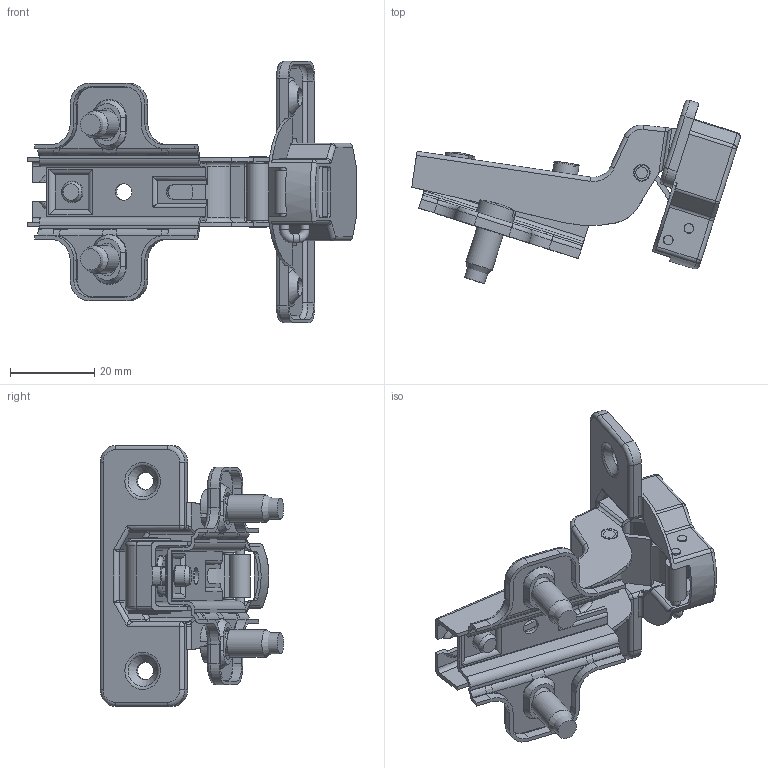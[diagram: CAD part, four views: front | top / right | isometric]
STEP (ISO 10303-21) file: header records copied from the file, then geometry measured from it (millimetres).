
FILE_DESCRIPTION(/* description */ (''),/* implementation_level */ '2;1');
FILE_NAME(/* name */ 'W:\R&D\pub\Katalog techniczny\bryły 3D\ZP-BICN070ZE.stp',/* time_stamp */ '2016-09-13T12:47:36+02:00',/* author */ ('tomaszw'),/* organization */ (''),/* preprocessor_version */ 'ST-DEVELOPER v16.1',/* originating_system */ 'Autodesk Inventor 2016',/* authorisation */ '');
FILE_SCHEMA (('AUTOMOTIVE_DESIGN { 1 0 10303 214 3 1 1 }'));
Length unit declared in the file: millimetre
Products named in the file (12): P0; ZP-BICN070BE; ZP-BICN0_1; ZP-BICN0-P; ZP-BICN0_2; ZP-BICN0_pin1; ZP-BICN0_pin2; ZP-BICN0_pin3; Euro; Wkret4x6; WR; ZP-BICN(R)07(8)(9)0(2)BE(ZE)
Assembly tree (12 placements, depth 2):
  ZP-BICN(R)07(8)(9)0(2)BE(ZE)
    P0
    ZP-BICN070BE
    ZP-BICN0_1
    ZP-BICN0-P
    ZP-BICN0_2
    ZP-BICN0_pin1
    ZP-BICN0_pin2
    ZP-BICN0_pin3
    Euro  x2
    Wkret4x6
    WR
Bounding box: 77.92 x 43.51 x 62 mm (x, y, z)
Volume: 9802.4 mm3; surface area: 20381.4 mm2
Topology: 14 solids, 14 shells, 699 faces, 1721 edges, 1044 vertices
Faces by surface type: cylinder 300, plane 237, torus 71, bspline 35, sphere 34, cone 22
Full cylindrical faces by diameter (mm): 2.2 x3, 2.279 x2, 2.3 x4, 2.5 x4, 2.8 x1, 3 x1, 3.221 x2, 3.242 x1, 3.5 x2, 3.679 x2, 4 x4, 4.2 x2, 5 x3, 5.5 x2, 5.917 x1, 6 x1, 6.5 x2, 7 x1, 9 x2
Entity records: 20909 total; most frequent: CARTESIAN_POINT 4614, DIRECTION 3565, ORIENTED_EDGE 3194, EDGE_CURVE 1597, AXIS2_PLACEMENT_3D 1391, VERTEX_POINT 1000, LINE 783, VECTOR 783
